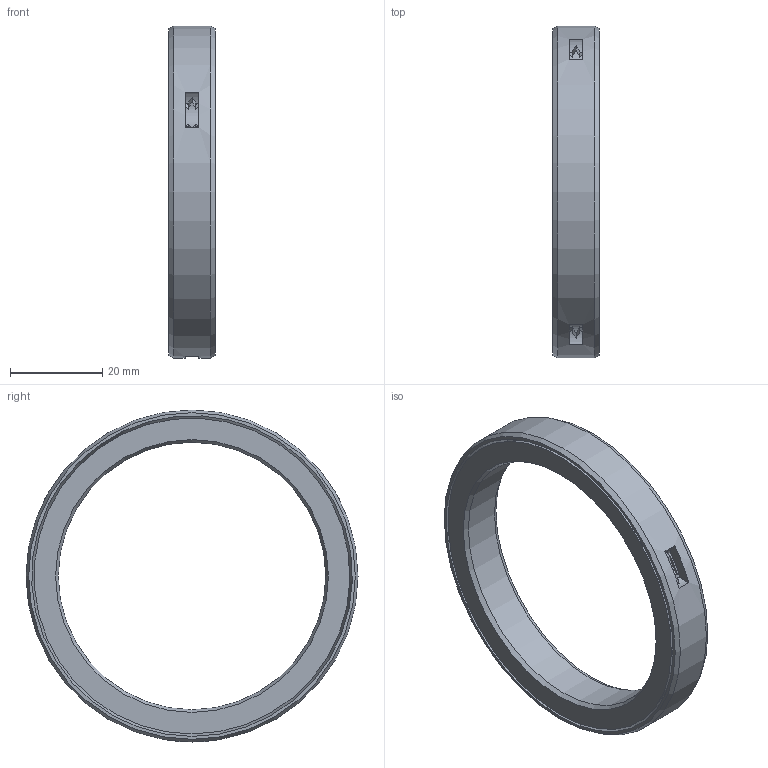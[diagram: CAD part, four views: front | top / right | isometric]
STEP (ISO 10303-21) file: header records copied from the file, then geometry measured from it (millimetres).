
FILE_DESCRIPTION(/* description */ (''),/* implementation_level */ '2;1');
FILE_NAME(/* name */ '301384 M 58x72x10.stp',/* time_stamp */ '2016-12-15T11:38:23+01:00',/* author */ (''),/* organization */ (''),/* preprocessor_version */ 'ST-DEVELOPER v15',/* originating_system */ 'SIEMENS PLM Software NX 8.5',/* authorisation */ '');
FILE_SCHEMA (('CONFIG_CONTROL_DESIGN'));
Length unit declared in the file: millimetre
Products named in the file (1): ATE0000124_01
Bounding box: 10 x 72 x 72 mm (x, y, z)
Volume: 12626.8 mm3; surface area: 11350.8 mm2
Topology: 2 solids, 2 shells, 49 faces, 143 edges, 94 vertices
Faces by surface type: cone 22, plane 16, cylinder 11
Full cylindrical faces by diameter (mm): 58 x1, 72 x1
Entity records: 1626 total; most frequent: CARTESIAN_POINT 396, ORIENTED_EDGE 240, DIRECTION 234, EDGE_CURVE 120, AXIS2_PLACEMENT_3D 114, VERTEX_POINT 84, CIRCLE 66, EDGE_LOOP 64
